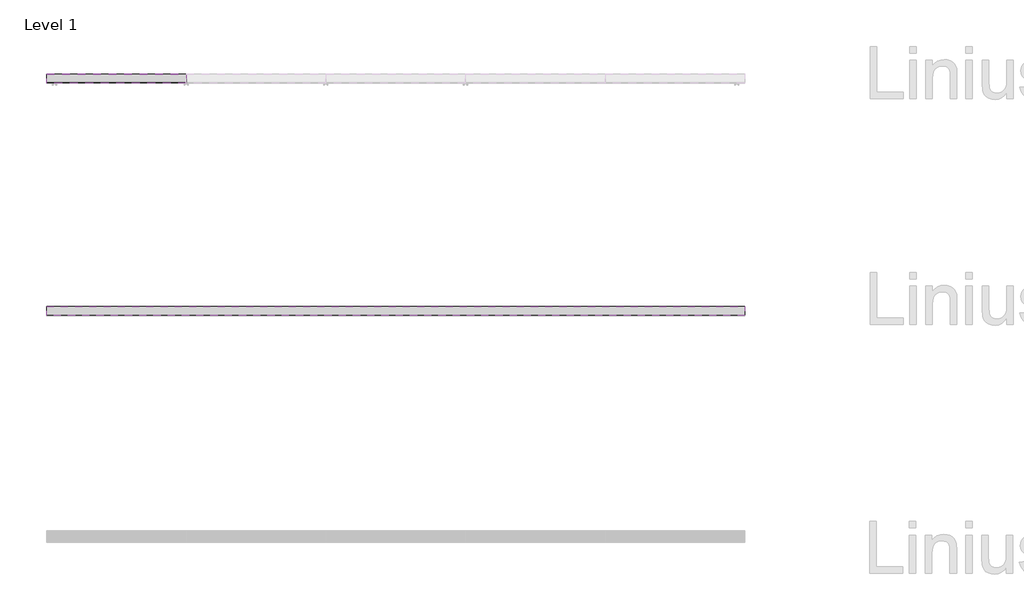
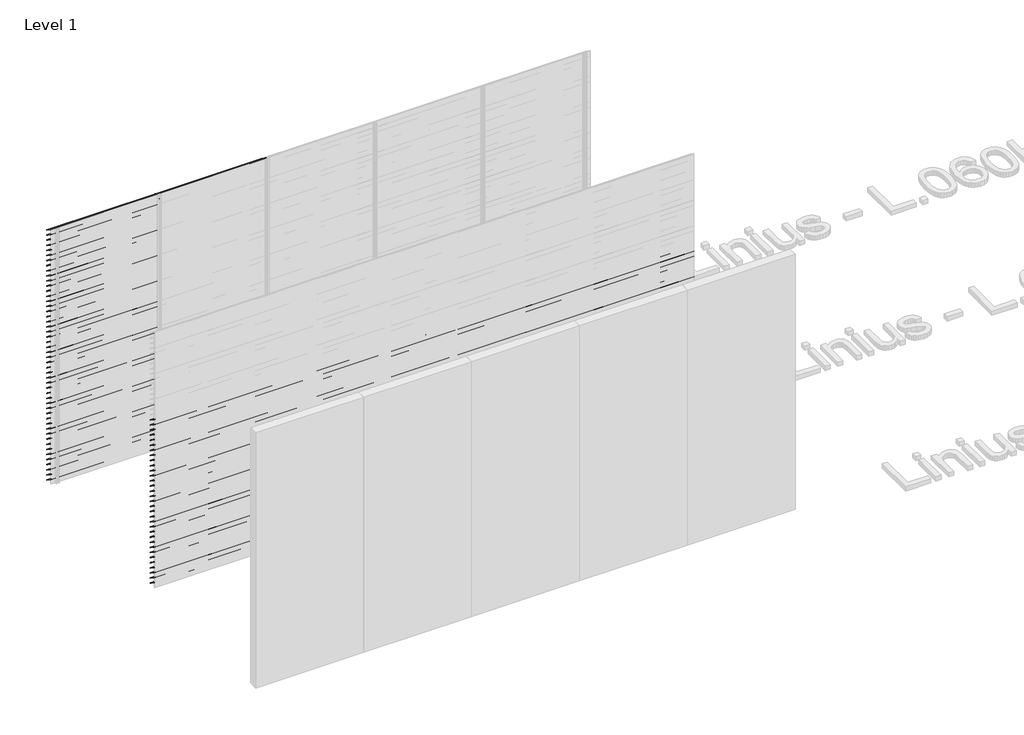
# One storey, part 126 of 153: 85 proxies.
"""IFC4 building model written with IfcOpenShell, lengths in millimetres."""

from ifc_helpers import new_model, si_unit, frame, origin, place, context, project, spatial, polyline, outline, extrude, element, save

model = new_model("IFC4")

# Units and contexts
model_context = context("Model", 3, world=origin())
ifc_project = project(units=[si_unit("LENGTHUNIT", "METRE", prefix="MILLI")], contexts=[model_context])

# Site, building, storey
site = spatial("IfcSite", under=ifc_project)
building = spatial("IfcBuilding", under=site)
storey = spatial("IfcBuildingStorey", under=building, Name="Level 1", Elevation=0.0)

# Proxies
placement = place(None, origin())
element("IfcBuildingElementProxy", 1, Name="Wall Sweeps", at=placement, inside=storey, context=model_context, shape_type="SweptSolid", body=[
    extrude(outline(polyline([(66561.0540136, 2946.0), (66561.0540136, 2940.0), (66559.8040136, 2940.7216933), (66559.8040136, 2945.2538091), (66483.0540136, 2993.9915103), (66483.0540136, 3000.0), (66484.3040136, 3000.0), (66484.3040136, 2994.7377012), (66561.0540136, 2946.0)])), frame((466.6208097, 0.0, 0.0), z_axis=(1.0, 0.0, 0.0), x_axis=(0.0, 1.0, 0.0)), (0.0, 0.0, 1.0), 1200.0000002),
])
element("IfcBuildingElementProxy", 2, Name="Wall Sweeps", at=placement, inside=storey, context=model_context, shape_type="SweptSolid", body=[
    extrude(outline(polyline([(66561.0540136, 2886.0), (66561.0540136, 2880.0), (66559.8040136, 2880.7216933), (66559.8040136, 2885.2538091), (66483.0540136, 2933.9915103), (66483.0540136, 2940.0), (66484.3040136, 2940.0), (66484.3040136, 2934.7377012), (66561.0540136, 2886.0)])), frame((466.6208097, 0.0, 0.0), z_axis=(1.0, 0.0, 0.0), x_axis=(0.0, 1.0, 0.0)), (0.0, 0.0, 1.0), 1200.0000002),
])
element("IfcBuildingElementProxy", 3, Name="Wall Sweeps", at=placement, inside=storey, context=model_context, shape_type="SweptSolid", body=[
    extrude(outline(polyline([(66561.0540136, 2826.0), (66561.0540136, 2820.0), (66559.8040136, 2820.7216933), (66559.8040136, 2825.2538091), (66483.0540136, 2873.9915103), (66483.0540136, 2880.0), (66484.3040136, 2880.0), (66484.3040136, 2874.7377012), (66561.0540136, 2826.0)])), frame((466.6208097, 0.0, 0.0), z_axis=(1.0, 0.0, 0.0), x_axis=(0.0, 1.0, 0.0)), (0.0, 0.0, 1.0), 1200.0000002),
])
element("IfcBuildingElementProxy", 4, Name="Wall Sweeps", at=placement, inside=storey, context=model_context, shape_type="SweptSolid", body=[
    extrude(outline(polyline([(66561.0540136, 2766.0), (66561.0540136, 2760.0), (66559.8040136, 2760.7216933), (66559.8040136, 2765.2538091), (66483.0540136, 2813.9915103), (66483.0540136, 2820.0), (66484.3040136, 2820.0), (66484.3040136, 2814.7377012), (66561.0540136, 2766.0)])), frame((466.6208097, 0.0, 0.0), z_axis=(1.0, 0.0, 0.0), x_axis=(0.0, 1.0, 0.0)), (0.0, 0.0, 1.0), 1200.0000002),
])
element("IfcBuildingElementProxy", 5, Name="Wall Sweeps", at=placement, inside=storey, context=model_context, shape_type="SweptSolid", body=[
    extrude(outline(polyline([(66561.0540136, 2706.0), (66561.0540136, 2700.0), (66559.8040136, 2700.7216933), (66559.8040136, 2705.2538091), (66483.0540136, 2753.9915103), (66483.0540136, 2760.0), (66484.3040136, 2760.0), (66484.3040136, 2754.7377012), (66561.0540136, 2706.0)])), frame((466.6208097, 0.0, 0.0), z_axis=(1.0, 0.0, 0.0), x_axis=(0.0, 1.0, 0.0)), (0.0, 0.0, 1.0), 1200.0000002),
])
element("IfcBuildingElementProxy", 6, Name="Wall Sweeps", at=placement, inside=storey, context=model_context, shape_type="SweptSolid", body=[
    extrude(outline(polyline([(66561.0540136, 2646.0), (66561.0540136, 2640.0), (66559.8040136, 2640.7216933), (66559.8040136, 2645.2538091), (66483.0540136, 2693.9915103), (66483.0540136, 2700.0), (66484.3040136, 2700.0), (66484.3040136, 2694.7377012), (66561.0540136, 2646.0)])), frame((466.6208097, 0.0, 0.0), z_axis=(1.0, 0.0, 0.0), x_axis=(0.0, 1.0, 0.0)), (0.0, 0.0, 1.0), 1200.0000002),
])
element("IfcBuildingElementProxy", 7, Name="Wall Sweeps", at=placement, inside=storey, context=model_context, shape_type="SweptSolid", body=[
    extrude(outline(polyline([(66561.0540136, 2586.0), (66561.0540136, 2580.0), (66559.8040136, 2580.7216933), (66559.8040136, 2585.2538091), (66483.0540136, 2633.9915103), (66483.0540136, 2640.0), (66484.3040136, 2640.0), (66484.3040136, 2634.7377012), (66561.0540136, 2586.0)])), frame((466.6208097, 0.0, 0.0), z_axis=(1.0, 0.0, 0.0), x_axis=(0.0, 1.0, 0.0)), (0.0, 0.0, 1.0), 1200.0000002),
])
element("IfcBuildingElementProxy", 8, Name="Wall Sweeps", at=placement, inside=storey, context=model_context, shape_type="SweptSolid", body=[
    extrude(outline(polyline([(66561.0540136, 2526.0), (66561.0540136, 2520.0), (66559.8040136, 2520.7216933), (66559.8040136, 2525.2538091), (66483.0540136, 2573.9915103), (66483.0540136, 2580.0), (66484.3040136, 2580.0), (66484.3040136, 2574.7377012), (66561.0540136, 2526.0)])), frame((466.6208097, 0.0, 0.0), z_axis=(1.0, 0.0, 0.0), x_axis=(0.0, 1.0, 0.0)), (0.0, 0.0, 1.0), 1200.0000002),
])
element("IfcBuildingElementProxy", 9, Name="Wall Sweeps", at=placement, inside=storey, context=model_context, shape_type="SweptSolid", body=[
    extrude(outline(polyline([(66561.0540136, 2466.0), (66561.0540136, 2460.0), (66559.8040136, 2460.7216933), (66559.8040136, 2465.2538091), (66483.0540136, 2513.9915103), (66483.0540136, 2520.0), (66484.3040136, 2520.0), (66484.3040136, 2514.7377012), (66561.0540136, 2466.0)])), frame((466.6208097, 0.0, 0.0), z_axis=(1.0, 0.0, 0.0), x_axis=(0.0, 1.0, 0.0)), (0.0, 0.0, 1.0), 1200.0000002),
])
element("IfcBuildingElementProxy", 10, Name="Wall Sweeps", at=placement, inside=storey, context=model_context, shape_type="SweptSolid", body=[
    extrude(outline(polyline([(66561.0540136, 2406.0), (66561.0540136, 2400.0), (66559.8040136, 2400.7216933), (66559.8040136, 2405.2538091), (66483.0540136, 2453.9915103), (66483.0540136, 2460.0), (66484.3040136, 2460.0), (66484.3040136, 2454.7377012), (66561.0540136, 2406.0)])), frame((466.6208097, 0.0, 0.0), z_axis=(1.0, 0.0, 0.0), x_axis=(0.0, 1.0, 0.0)), (0.0, 0.0, 1.0), 1200.0000002),
])
element("IfcBuildingElementProxy", 11, Name="Wall Sweeps", at=placement, inside=storey, context=model_context, shape_type="SweptSolid", body=[
    extrude(outline(polyline([(66561.0540136, 2346.0), (66561.0540136, 2340.0), (66559.8040136, 2340.7216933), (66559.8040136, 2345.2538091), (66483.0540136, 2393.9915103), (66483.0540136, 2400.0), (66484.3040136, 2400.0), (66484.3040136, 2394.7377012), (66561.0540136, 2346.0)])), frame((466.6208097, 0.0, 0.0), z_axis=(1.0, 0.0, 0.0), x_axis=(0.0, 1.0, 0.0)), (0.0, 0.0, 1.0), 1200.0000002),
])
element("IfcBuildingElementProxy", 12, Name="Wall Sweeps", at=placement, inside=storey, context=model_context, shape_type="SweptSolid", body=[
    extrude(outline(polyline([(66561.0540136, 2286.0), (66561.0540136, 2280.0), (66559.8040136, 2280.7216933), (66559.8040136, 2285.2538091), (66483.0540136, 2333.9915103), (66483.0540136, 2340.0), (66484.3040136, 2340.0), (66484.3040136, 2334.7377012), (66561.0540136, 2286.0)])), frame((466.6208097, 0.0, 0.0), z_axis=(1.0, 0.0, 0.0), x_axis=(0.0, 1.0, 0.0)), (0.0, 0.0, 1.0), 1200.0000002),
])
element("IfcBuildingElementProxy", 13, Name="Wall Sweeps", at=placement, inside=storey, context=model_context, shape_type="SweptSolid", body=[
    extrude(outline(polyline([(66561.0540136, 2226.0), (66561.0540136, 2220.0), (66559.8040136, 2220.7216933), (66559.8040136, 2225.2538091), (66483.0540136, 2273.9915103), (66483.0540136, 2280.0), (66484.3040136, 2280.0), (66484.3040136, 2274.7377012), (66561.0540136, 2226.0)])), frame((466.6208097, 0.0, 0.0), z_axis=(1.0, 0.0, 0.0), x_axis=(0.0, 1.0, 0.0)), (0.0, 0.0, 1.0), 1200.0000002),
])
element("IfcBuildingElementProxy", 14, Name="Wall Sweeps", at=placement, inside=storey, context=model_context, shape_type="SweptSolid", body=[
    extrude(outline(polyline([(66561.0540136, 2166.0), (66561.0540136, 2160.0), (66559.8040136, 2160.7216933), (66559.8040136, 2165.2538091), (66483.0540136, 2213.9915103), (66483.0540136, 2220.0), (66484.3040136, 2220.0), (66484.3040136, 2214.7377012), (66561.0540136, 2166.0)])), frame((466.6208097, 0.0, 0.0), z_axis=(1.0, 0.0, 0.0), x_axis=(0.0, 1.0, 0.0)), (0.0, 0.0, 1.0), 1200.0000002),
])
element("IfcBuildingElementProxy", 15, Name="Wall Sweeps", at=placement, inside=storey, context=model_context, shape_type="SweptSolid", body=[
    extrude(outline(polyline([(66561.0540136, 2106.0), (66561.0540136, 2100.0), (66559.8040136, 2100.7216933), (66559.8040136, 2105.2538091), (66483.0540136, 2153.9915103), (66483.0540136, 2160.0), (66484.3040136, 2160.0), (66484.3040136, 2154.7377012), (66561.0540136, 2106.0)])), frame((466.6208097, 0.0, 0.0), z_axis=(1.0, 0.0, 0.0), x_axis=(0.0, 1.0, 0.0)), (0.0, 0.0, 1.0), 1200.0000002),
])
element("IfcBuildingElementProxy", 16, Name="Wall Sweeps", at=placement, inside=storey, context=model_context, shape_type="SweptSolid", body=[
    extrude(outline(polyline([(66561.0540136, 2046.0), (66561.0540136, 2040.0), (66559.8040136, 2040.7216933), (66559.8040136, 2045.2538091), (66483.0540136, 2093.9915103), (66483.0540136, 2100.0), (66484.3040136, 2100.0), (66484.3040136, 2094.7377012), (66561.0540136, 2046.0)])), frame((466.6208097, 0.0, 0.0), z_axis=(1.0, 0.0, 0.0), x_axis=(0.0, 1.0, 0.0)), (0.0, 0.0, 1.0), 1200.0000002),
])
element("IfcBuildingElementProxy", 17, Name="Wall Sweeps", at=placement, inside=storey, context=model_context, shape_type="SweptSolid", body=[
    extrude(outline(polyline([(66561.0540136, 1986.0), (66561.0540136, 1980.0), (66559.8040136, 1980.7216933), (66559.8040136, 1985.2538091), (66483.0540136, 2033.9915103), (66483.0540136, 2040.0), (66484.3040136, 2040.0), (66484.3040136, 2034.7377012), (66561.0540136, 1986.0)])), frame((466.6208097, 0.0, 0.0), z_axis=(1.0, 0.0, 0.0), x_axis=(0.0, 1.0, 0.0)), (0.0, 0.0, 1.0), 1200.0000002),
])
element("IfcBuildingElementProxy", 18, Name="Wall Sweeps", at=placement, inside=storey, context=model_context, shape_type="SweptSolid", body=[
    extrude(outline(polyline([(66561.0540136, 1926.0), (66561.0540136, 1920.0), (66559.8040136, 1920.7216933), (66559.8040136, 1925.2538091), (66483.0540136, 1973.9915103), (66483.0540136, 1980.0), (66484.3040136, 1980.0), (66484.3040136, 1974.7377012), (66561.0540136, 1926.0)])), frame((466.6208097, 0.0, 0.0), z_axis=(1.0, 0.0, 0.0), x_axis=(0.0, 1.0, 0.0)), (0.0, 0.0, 1.0), 1200.0000002),
])
element("IfcBuildingElementProxy", 19, Name="Wall Sweeps", at=placement, inside=storey, context=model_context, shape_type="SweptSolid", body=[
    extrude(outline(polyline([(66561.0540136, 1866.0), (66561.0540136, 1860.0), (66559.8040136, 1860.7216933), (66559.8040136, 1865.2538091), (66483.0540136, 1913.9915103), (66483.0540136, 1920.0), (66484.3040136, 1920.0), (66484.3040136, 1914.7377012), (66561.0540136, 1866.0)])), frame((466.6208097, 0.0, 0.0), z_axis=(1.0, 0.0, 0.0), x_axis=(0.0, 1.0, 0.0)), (0.0, 0.0, 1.0), 1200.0000002),
])
element("IfcBuildingElementProxy", 20, Name="Wall Sweeps", at=placement, inside=storey, context=model_context, shape_type="SweptSolid", body=[
    extrude(outline(polyline([(66561.0540136, 1806.0), (66561.0540136, 1800.0), (66559.8040136, 1800.7216933), (66559.8040136, 1805.2538091), (66483.0540136, 1853.9915103), (66483.0540136, 1860.0), (66484.3040136, 1860.0), (66484.3040136, 1854.7377012), (66561.0540136, 1806.0)])), frame((466.6208097, 0.0, 0.0), z_axis=(1.0, 0.0, 0.0), x_axis=(0.0, 1.0, 0.0)), (0.0, 0.0, 1.0), 1200.0000002),
])
element("IfcBuildingElementProxy", 21, Name="Wall Sweeps", at=placement, inside=storey, context=model_context, shape_type="SweptSolid", body=[
    extrude(outline(polyline([(66561.0540136, 1746.0), (66561.0540136, 1740.0), (66559.8040136, 1740.7216933), (66559.8040136, 1745.2538091), (66483.0540136, 1793.9915103), (66483.0540136, 1800.0), (66484.3040136, 1800.0), (66484.3040136, 1794.7377012), (66561.0540136, 1746.0)])), frame((466.6208097, 0.0, 0.0), z_axis=(1.0, 0.0, 0.0), x_axis=(0.0, 1.0, 0.0)), (0.0, 0.0, 1.0), 1200.0000002),
])
element("IfcBuildingElementProxy", 22, Name="Wall Sweeps", at=placement, inside=storey, context=model_context, shape_type="SweptSolid", body=[
    extrude(outline(polyline([(66561.0540136, 1686.0), (66561.0540136, 1680.0), (66559.8040136, 1680.7216933), (66559.8040136, 1685.2538091), (66483.0540136, 1733.9915103), (66483.0540136, 1740.0), (66484.3040136, 1740.0), (66484.3040136, 1734.7377012), (66561.0540136, 1686.0)])), frame((466.6208097, 0.0, 0.0), z_axis=(1.0, 0.0, 0.0), x_axis=(0.0, 1.0, 0.0)), (0.0, 0.0, 1.0), 1200.0000002),
])
element("IfcBuildingElementProxy", 23, Name="Wall Sweeps", at=placement, inside=storey, context=model_context, shape_type="SweptSolid", body=[
    extrude(outline(polyline([(66561.0540136, 1626.0), (66561.0540136, 1620.0), (66559.8040136, 1620.7216933), (66559.8040136, 1625.2538091), (66483.0540136, 1673.9915103), (66483.0540136, 1680.0), (66484.3040136, 1680.0), (66484.3040136, 1674.7377012), (66561.0540136, 1626.0)])), frame((466.6208097, 0.0, 0.0), z_axis=(1.0, 0.0, 0.0), x_axis=(0.0, 1.0, 0.0)), (0.0, 0.0, 1.0), 1200.0000002),
])
element("IfcBuildingElementProxy", 24, Name="Wall Sweeps", at=placement, inside=storey, context=model_context, shape_type="SweptSolid", body=[
    extrude(outline(polyline([(66561.0540136, 1566.0), (66561.0540136, 1560.0), (66559.8040136, 1560.7216933), (66559.8040136, 1565.2538091), (66483.0540136, 1613.9915103), (66483.0540136, 1620.0), (66484.3040136, 1620.0), (66484.3040136, 1614.7377012), (66561.0540136, 1566.0)])), frame((466.6208097, 0.0, 0.0), z_axis=(1.0, 0.0, 0.0), x_axis=(0.0, 1.0, 0.0)), (0.0, 0.0, 1.0), 1200.0000002),
])
element("IfcBuildingElementProxy", 25, Name="Wall Sweeps", at=placement, inside=storey, context=model_context, shape_type="SweptSolid", body=[
    extrude(outline(polyline([(66561.0540136, 1506.0), (66561.0540136, 1500.0), (66559.8040136, 1500.7216933), (66559.8040136, 1505.2538091), (66483.0540136, 1553.9915103), (66483.0540136, 1560.0), (66484.3040136, 1560.0), (66484.3040136, 1554.7377012), (66561.0540136, 1506.0)])), frame((466.6208097, 0.0, 0.0), z_axis=(1.0, 0.0, 0.0), x_axis=(0.0, 1.0, 0.0)), (0.0, 0.0, 1.0), 1200.0000002),
])
element("IfcBuildingElementProxy", 26, Name="Wall Sweeps", at=placement, inside=storey, context=model_context, shape_type="SweptSolid", body=[
    extrude(outline(polyline([(66561.0540136, 1446.0), (66561.0540136, 1440.0), (66559.8040136, 1440.7216933), (66559.8040136, 1445.2538091), (66483.0540136, 1493.9915103), (66483.0540136, 1500.0), (66484.3040136, 1500.0), (66484.3040136, 1494.7377012), (66561.0540136, 1446.0)])), frame((466.6208097, 0.0, 0.0), z_axis=(1.0, 0.0, 0.0), x_axis=(0.0, 1.0, 0.0)), (0.0, 0.0, 1.0), 1200.0000002),
])
element("IfcBuildingElementProxy", 27, Name="Wall Sweeps", at=placement, inside=storey, context=model_context, shape_type="SweptSolid", body=[
    extrude(outline(polyline([(66561.0540136, 1386.0), (66561.0540136, 1380.0), (66559.8040136, 1380.7216933), (66559.8040136, 1385.2538091), (66483.0540136, 1433.9915103), (66483.0540136, 1440.0), (66484.3040136, 1440.0), (66484.3040136, 1434.7377012), (66561.0540136, 1386.0)])), frame((466.6208097, 0.0, 0.0), z_axis=(1.0, 0.0, 0.0), x_axis=(0.0, 1.0, 0.0)), (0.0, 0.0, 1.0), 1200.0000002),
])
element("IfcBuildingElementProxy", 28, Name="Wall Sweeps", at=placement, inside=storey, context=model_context, shape_type="SweptSolid", body=[
    extrude(outline(polyline([(66561.0540136, 1326.0), (66561.0540136, 1320.0), (66559.8040136, 1320.7216933), (66559.8040136, 1325.2538091), (66483.0540136, 1373.9915103), (66483.0540136, 1380.0), (66484.3040136, 1380.0), (66484.3040136, 1374.7377012), (66561.0540136, 1326.0)])), frame((466.6208097, 0.0, 0.0), z_axis=(1.0, 0.0, 0.0), x_axis=(0.0, 1.0, 0.0)), (0.0, 0.0, 1.0), 1200.0000002),
])
element("IfcBuildingElementProxy", 29, Name="Wall Sweeps", at=placement, inside=storey, context=model_context, shape_type="SweptSolid", body=[
    extrude(outline(polyline([(66561.0540136, 1266.0), (66561.0540136, 1260.0), (66559.8040136, 1260.7216933), (66559.8040136, 1265.2538091), (66483.0540136, 1313.9915103), (66483.0540136, 1320.0), (66484.3040136, 1320.0), (66484.3040136, 1314.7377012), (66561.0540136, 1266.0)])), frame((466.6208097, 0.0, 0.0), z_axis=(1.0, 0.0, 0.0), x_axis=(0.0, 1.0, 0.0)), (0.0, 0.0, 1.0), 1200.0000002),
])
element("IfcBuildingElementProxy", 30, Name="Wall Sweeps", at=placement, inside=storey, context=model_context, shape_type="SweptSolid", body=[
    extrude(outline(polyline([(66561.0540136, 1206.0), (66561.0540136, 1200.0), (66559.8040136, 1200.7216933), (66559.8040136, 1205.2538091), (66483.0540136, 1253.9915103), (66483.0540136, 1260.0), (66484.3040136, 1260.0), (66484.3040136, 1254.7377012), (66561.0540136, 1206.0)])), frame((466.6208097, 0.0, 0.0), z_axis=(1.0, 0.0, 0.0), x_axis=(0.0, 1.0, 0.0)), (0.0, 0.0, 1.0), 1200.0000002),
])
element("IfcBuildingElementProxy", 31, Name="Wall Sweeps", at=placement, inside=storey, context=model_context, shape_type="SweptSolid", body=[
    extrude(outline(polyline([(66561.0540136, 1146.0), (66561.0540136, 1140.0), (66559.8040136, 1140.7216933), (66559.8040136, 1145.2538091), (66483.0540136, 1193.9915103), (66483.0540136, 1200.0), (66484.3040136, 1200.0), (66484.3040136, 1194.7377012), (66561.0540136, 1146.0)])), frame((466.6208097, 0.0, 0.0), z_axis=(1.0, 0.0, 0.0), x_axis=(0.0, 1.0, 0.0)), (0.0, 0.0, 1.0), 1200.0000002),
])
element("IfcBuildingElementProxy", 32, Name="Wall Sweeps", at=placement, inside=storey, context=model_context, shape_type="SweptSolid", body=[
    extrude(outline(polyline([(66561.0540136, 1086.0), (66561.0540136, 1080.0), (66559.8040136, 1080.7216933), (66559.8040136, 1085.2538091), (66483.0540136, 1133.9915103), (66483.0540136, 1140.0), (66484.3040136, 1140.0), (66484.3040136, 1134.7377012), (66561.0540136, 1086.0)])), frame((466.6208097, 0.0, 0.0), z_axis=(1.0, 0.0, 0.0), x_axis=(0.0, 1.0, 0.0)), (0.0, 0.0, 1.0), 1200.0000002),
])
element("IfcBuildingElementProxy", 33, Name="Wall Sweeps", at=placement, inside=storey, context=model_context, shape_type="SweptSolid", body=[
    extrude(outline(polyline([(66561.0540136, 1026.0), (66561.0540136, 1020.0), (66559.8040136, 1020.7216933), (66559.8040136, 1025.2538091), (66483.0540136, 1073.9915103), (66483.0540136, 1080.0), (66484.3040136, 1080.0), (66484.3040136, 1074.7377012), (66561.0540136, 1026.0)])), frame((466.6208097, 0.0, 0.0), z_axis=(1.0, 0.0, 0.0), x_axis=(0.0, 1.0, 0.0)), (0.0, 0.0, 1.0), 1200.0000002),
])
element("IfcBuildingElementProxy", 34, Name="Wall Sweeps", at=placement, inside=storey, context=model_context, shape_type="SweptSolid", body=[
    extrude(outline(polyline([(66561.0540136, 966.0), (66561.0540136, 960.0), (66559.8040136, 960.7216933), (66559.8040136, 965.2538091), (66483.0540136, 1013.9915103), (66483.0540136, 1020.0), (66484.3040136, 1020.0), (66484.3040136, 1014.7377012), (66561.0540136, 966.0)])), frame((466.6208097, 0.0, 0.0), z_axis=(1.0, 0.0, 0.0), x_axis=(0.0, 1.0, 0.0)), (0.0, 0.0, 1.0), 1200.0000002),
])
element("IfcBuildingElementProxy", 35, Name="Wall Sweeps", at=placement, inside=storey, context=model_context, shape_type="SweptSolid", body=[
    extrude(outline(polyline([(66561.0540136, 906.0), (66561.0540136, 900.0), (66559.8040136, 900.7216933), (66559.8040136, 905.2538091), (66483.0540136, 953.9915103), (66483.0540136, 960.0), (66484.3040136, 960.0), (66484.3040136, 954.7377012), (66561.0540136, 906.0)])), frame((466.6208097, 0.0, 0.0), z_axis=(1.0, 0.0, 0.0), x_axis=(0.0, 1.0, 0.0)), (0.0, 0.0, 1.0), 1200.0000002),
])
element("IfcBuildingElementProxy", 36, Name="Wall Sweeps", at=placement, inside=storey, context=model_context, shape_type="SweptSolid", body=[
    extrude(outline(polyline([(66561.0540136, 846.0), (66561.0540136, 840.0), (66559.8040136, 840.7216933), (66559.8040136, 845.2538091), (66483.0540136, 893.9915103), (66483.0540136, 900.0), (66484.3040136, 900.0), (66484.3040136, 894.7377012), (66561.0540136, 846.0)])), frame((466.6208097, 0.0, 0.0), z_axis=(1.0, 0.0, 0.0), x_axis=(0.0, 1.0, 0.0)), (0.0, 0.0, 1.0), 1200.0000002),
])
element("IfcBuildingElementProxy", 37, Name="Wall Sweeps", at=placement, inside=storey, context=model_context, shape_type="SweptSolid", body=[
    extrude(outline(polyline([(66561.0540136, 786.0), (66561.0540136, 780.0), (66559.8040136, 780.7216933), (66559.8040136, 785.2538091), (66483.0540136, 833.9915103), (66483.0540136, 840.0), (66484.3040136, 840.0), (66484.3040136, 834.7377012), (66561.0540136, 786.0)])), frame((466.6208097, 0.0, 0.0), z_axis=(1.0, 0.0, 0.0), x_axis=(0.0, 1.0, 0.0)), (0.0, 0.0, 1.0), 1200.0000002),
])
element("IfcBuildingElementProxy", 38, Name="Wall Sweeps", at=placement, inside=storey, context=model_context, shape_type="SweptSolid", body=[
    extrude(outline(polyline([(66561.0540136, 726.0), (66561.0540136, 720.0), (66559.8040136, 720.7216933), (66559.8040136, 725.2538091), (66483.0540136, 773.9915103), (66483.0540136, 780.0), (66484.3040136, 780.0), (66484.3040136, 774.7377012), (66561.0540136, 726.0)])), frame((466.6208097, 0.0, 0.0), z_axis=(1.0, 0.0, 0.0), x_axis=(0.0, 1.0, 0.0)), (0.0, 0.0, 1.0), 1200.0000002),
])
element("IfcBuildingElementProxy", 39, Name="Wall Sweeps", at=placement, inside=storey, context=model_context, shape_type="SweptSolid", body=[
    extrude(outline(polyline([(66561.0540136, 666.0), (66561.0540136, 660.0), (66559.8040136, 660.7216933), (66559.8040136, 665.2538091), (66483.0540136, 713.9915103), (66483.0540136, 720.0), (66484.3040136, 720.0), (66484.3040136, 714.7377012), (66561.0540136, 666.0)])), frame((466.6208097, 0.0, 0.0), z_axis=(1.0, 0.0, 0.0), x_axis=(0.0, 1.0, 0.0)), (0.0, 0.0, 1.0), 1200.0000002),
])
element("IfcBuildingElementProxy", 40, Name="Wall Sweeps", at=placement, inside=storey, context=model_context, shape_type="SweptSolid", body=[
    extrude(outline(polyline([(66561.0540136, 606.0), (66561.0540136, 600.0), (66559.8040136, 600.7216933), (66559.8040136, 605.2538091), (66483.0540136, 653.9915103), (66483.0540136, 660.0), (66484.3040136, 660.0), (66484.3040136, 654.7377012), (66561.0540136, 606.0)])), frame((466.6208097, 0.0, 0.0), z_axis=(1.0, 0.0, 0.0), x_axis=(0.0, 1.0, 0.0)), (0.0, 0.0, 1.0), 1200.0000002),
])
element("IfcBuildingElementProxy", 41, Name="Wall Sweeps", at=placement, inside=storey, context=model_context, shape_type="SweptSolid", body=[
    extrude(outline(polyline([(66561.0540136, 546.0), (66561.0540136, 540.0), (66559.8040136, 540.7216933), (66559.8040136, 545.2538091), (66483.0540136, 593.9915103), (66483.0540136, 600.0), (66484.3040136, 600.0), (66484.3040136, 594.7377012), (66561.0540136, 546.0)])), frame((466.6208097, 0.0, 0.0), z_axis=(1.0, 0.0, 0.0), x_axis=(0.0, 1.0, 0.0)), (0.0, 0.0, 1.0), 1200.0000002),
])
element("IfcBuildingElementProxy", 42, Name="Wall Sweeps", at=placement, inside=storey, context=model_context, shape_type="SweptSolid", body=[
    extrude(outline(polyline([(66561.0540136, 486.0), (66561.0540136, 480.0), (66559.8040136, 480.7216933), (66559.8040136, 485.2538091), (66483.0540136, 533.9915103), (66483.0540136, 540.0), (66484.3040136, 540.0), (66484.3040136, 534.7377012), (66561.0540136, 486.0)])), frame((466.6208097, 0.0, 0.0), z_axis=(1.0, 0.0, 0.0), x_axis=(0.0, 1.0, 0.0)), (0.0, 0.0, 1.0), 1200.0000002),
])
element("IfcBuildingElementProxy", 43, Name="Wall Sweeps", at=placement, inside=storey, context=model_context, shape_type="SweptSolid", body=[
    extrude(outline(polyline([(66561.0540136, 426.0), (66561.0540136, 420.0), (66559.8040136, 420.7216933), (66559.8040136, 425.2538091), (66483.0540136, 473.9915103), (66483.0540136, 480.0), (66484.3040136, 480.0), (66484.3040136, 474.7377012), (66561.0540136, 426.0)])), frame((466.6208097, 0.0, 0.0), z_axis=(1.0, 0.0, 0.0), x_axis=(0.0, 1.0, 0.0)), (0.0, 0.0, 1.0), 1200.0000002),
])
element("IfcBuildingElementProxy", 44, Name="Wall Sweeps", at=placement, inside=storey, context=model_context, shape_type="SweptSolid", body=[
    extrude(outline(polyline([(66561.0540136, 366.0), (66561.0540136, 360.0), (66559.8040136, 360.7216933), (66559.8040136, 365.2538091), (66483.0540136, 413.9915103), (66483.0540136, 420.0), (66484.3040136, 420.0), (66484.3040136, 414.7377012), (66561.0540136, 366.0)])), frame((466.6208097, 0.0, 0.0), z_axis=(1.0, 0.0, 0.0), x_axis=(0.0, 1.0, 0.0)), (0.0, 0.0, 1.0), 1200.0000002),
])
element("IfcBuildingElementProxy", 45, Name="Wall Sweeps", at=placement, inside=storey, context=model_context, shape_type="SweptSolid", body=[
    extrude(outline(polyline([(66561.0540136, 306.0), (66561.0540136, 300.0), (66559.8040136, 300.7216933), (66559.8040136, 305.2538091), (66483.0540136, 353.9915103), (66483.0540136, 360.0), (66484.3040136, 360.0), (66484.3040136, 354.7377012), (66561.0540136, 306.0)])), frame((466.6208097, 0.0, 0.0), z_axis=(1.0, 0.0, 0.0), x_axis=(0.0, 1.0, 0.0)), (0.0, 0.0, 1.0), 1200.0000002),
])
element("IfcBuildingElementProxy", 46, Name="Wall Sweeps", at=placement, inside=storey, context=model_context, shape_type="SweptSolid", body=[
    extrude(outline(polyline([(66561.0540136, 246.0), (66561.0540136, 240.0), (66559.8040136, 240.7216933), (66559.8040136, 245.2538091), (66483.0540136, 293.9915103), (66483.0540136, 300.0), (66484.3040136, 300.0), (66484.3040136, 294.7377012), (66561.0540136, 246.0)])), frame((466.6208097, 0.0, 0.0), z_axis=(1.0, 0.0, 0.0), x_axis=(0.0, 1.0, 0.0)), (0.0, 0.0, 1.0), 1200.0000002),
])
element("IfcBuildingElementProxy", 47, Name="Wall Sweeps", at=placement, inside=storey, context=model_context, shape_type="SweptSolid", body=[
    extrude(outline(polyline([(66561.0540136, 186.0), (66561.0540136, 180.0), (66559.8040136, 180.7216933), (66559.8040136, 185.2538091), (66483.0540136, 233.9915103), (66483.0540136, 240.0), (66484.3040136, 240.0), (66484.3040136, 234.7377012), (66561.0540136, 186.0)])), frame((466.6208097, 0.0, 0.0), z_axis=(1.0, 0.0, 0.0), x_axis=(0.0, 1.0, 0.0)), (0.0, 0.0, 1.0), 1200.0000002),
])
element("IfcBuildingElementProxy", 48, Name="Wall Sweeps", at=placement, inside=storey, context=model_context, shape_type="SweptSolid", body=[
    extrude(outline(polyline([(66561.0540136, 126.0), (66561.0540136, 120.0), (66559.8040136, 120.7216933), (66559.8040136, 125.2538091), (66483.0540136, 173.9915103), (66483.0540136, 180.0), (66484.3040136, 180.0), (66484.3040136, 174.7377012), (66561.0540136, 126.0)])), frame((466.6208097, 0.0, 0.0), z_axis=(1.0, 0.0, 0.0), x_axis=(0.0, 1.0, 0.0)), (0.0, 0.0, 1.0), 1200.0000002),
])
element("IfcBuildingElementProxy", 49, Name="Wall Sweeps", at=placement, inside=storey, context=model_context, shape_type="SweptSolid", body=[
    extrude(outline(polyline([(66561.0540136, 66.0), (66561.0540136, 60.0), (66559.8040136, 60.7216933), (66559.8040136, 65.2538091), (66483.0540136, 113.9915103), (66483.0540136, 120.0), (66484.3040136, 120.0), (66484.3040136, 114.7377012), (66561.0540136, 66.0)])), frame((466.6208097, 0.0, 0.0), z_axis=(1.0, 0.0, 0.0), x_axis=(0.0, 1.0, 0.0)), (0.0, 0.0, 1.0), 1200.0000002),
])
element("IfcBuildingElementProxy", 50, Name="Wall Sweeps", at=placement, inside=storey, context=model_context, shape_type="SweptSolid", body=[
    extrude(outline(polyline([(66561.0540136, 6.0), (66561.0540136, 0.0), (66559.8040136, 0.7216933), (66559.8040136, 5.2538091), (66483.0540136, 53.9915103), (66483.0540136, 60.0), (66484.3040136, 60.0), (66484.3040136, 54.7377012), (66561.0540136, 6.0)])), frame((466.6208097, 0.0, 0.0), z_axis=(1.0, 0.0, 0.0), x_axis=(0.0, 1.0, 0.0)), (0.0, 0.0, 1.0), 1200.0000002),
])
element("IfcBuildingElementProxy", 51, Name="Wall Sweeps", at=placement, inside=storey, context=model_context, shape_type="SweptSolid", body=[
    extrude(outline(polyline([(66561.0540136, 2946.0), (66561.0540136, 2940.0), (66559.8040136, 2940.7216933), (66559.8040136, 2945.2538091), (66483.0540136, 2993.9915103), (66483.0540136, 3000.0), (66484.3040136, 3000.0), (66484.3040136, 2994.7377012), (66561.0540136, 2946.0)])), frame((1666.6208099, 0.0, 0.0), z_axis=(1.0, 0.0, 0.0), x_axis=(0.0, 1.0, 0.0)), (0.0, 0.0, 1.0), 1199.9999999),
])
element("IfcBuildingElementProxy", 52, Name="Wall Sweeps", at=placement, inside=storey, context=model_context, shape_type="SweptSolid", body=[
    extrude(outline(polyline([(66561.0540136, 2886.0), (66561.0540136, 2880.0), (66559.8040136, 2880.7216933), (66559.8040136, 2885.2538091), (66483.0540136, 2933.9915103), (66483.0540136, 2940.0), (66484.3040136, 2940.0), (66484.3040136, 2934.7377012), (66561.0540136, 2886.0)])), frame((1666.6208099, 0.0, 0.0), z_axis=(1.0, 0.0, 0.0), x_axis=(0.0, 1.0, 0.0)), (0.0, 0.0, 1.0), 1199.9999999),
])
element("IfcBuildingElementProxy", 53, Name="Wall Sweeps", at=placement, inside=storey, context=model_context, shape_type="SweptSolid", body=[
    extrude(outline(polyline([(64561.0540136, 1926.0), (64561.0540136, 1920.0), (64559.8040136, 1920.7216933), (64559.8040136, 1925.2538091), (64483.0540136, 1973.9915103), (64483.0540136, 1980.0), (64484.3040136, 1980.0), (64484.3040136, 1974.7377012), (64561.0540136, 1926.0)])), frame((466.6208097, 0.0, 0.0), z_axis=(1.0, 0.0, 0.0), x_axis=(0.0, 1.0, 0.0)), (0.0, 0.0, 1.0), 6000.0),
])
element("IfcBuildingElementProxy", 54, Name="Wall Sweeps", at=placement, inside=storey, context=model_context, shape_type="SweptSolid", body=[
    extrude(outline(polyline([(64561.0540136, 1866.0), (64561.0540136, 1860.0), (64559.8040136, 1860.7216933), (64559.8040136, 1865.2538091), (64483.0540136, 1913.9915103), (64483.0540136, 1920.0), (64484.3040136, 1920.0), (64484.3040136, 1914.7377012), (64561.0540136, 1866.0)])), frame((466.6208097, 0.0, 0.0), z_axis=(1.0, 0.0, 0.0), x_axis=(0.0, 1.0, 0.0)), (0.0, 0.0, 1.0), 6000.0),
])
element("IfcBuildingElementProxy", 55, Name="Wall Sweeps", at=placement, inside=storey, context=model_context, shape_type="SweptSolid", body=[
    extrude(outline(polyline([(64561.0540136, 1806.0), (64561.0540136, 1800.0), (64559.8040136, 1800.7216933), (64559.8040136, 1805.2538091), (64483.0540136, 1853.9915103), (64483.0540136, 1860.0), (64484.3040136, 1860.0), (64484.3040136, 1854.7377012), (64561.0540136, 1806.0)])), frame((466.6208097, 0.0, 0.0), z_axis=(1.0, 0.0, 0.0), x_axis=(0.0, 1.0, 0.0)), (0.0, 0.0, 1.0), 6000.0),
])
element("IfcBuildingElementProxy", 56, Name="Wall Sweeps", at=placement, inside=storey, context=model_context, shape_type="SweptSolid", body=[
    extrude(outline(polyline([(64561.0540136, 1746.0), (64561.0540136, 1740.0), (64559.8040136, 1740.7216933), (64559.8040136, 1745.2538091), (64483.0540136, 1793.9915103), (64483.0540136, 1800.0), (64484.3040136, 1800.0), (64484.3040136, 1794.7377012), (64561.0540136, 1746.0)])), frame((466.6208097, 0.0, 0.0), z_axis=(1.0, 0.0, 0.0), x_axis=(0.0, 1.0, 0.0)), (0.0, 0.0, 1.0), 6000.0),
])
element("IfcBuildingElementProxy", 57, Name="Wall Sweeps", at=placement, inside=storey, context=model_context, shape_type="SweptSolid", body=[
    extrude(outline(polyline([(64561.0540136, 1686.0), (64561.0540136, 1680.0), (64559.8040136, 1680.7216933), (64559.8040136, 1685.2538091), (64483.0540136, 1733.9915103), (64483.0540136, 1740.0), (64484.3040136, 1740.0), (64484.3040136, 1734.7377012), (64561.0540136, 1686.0)])), frame((466.6208097, 0.0, 0.0), z_axis=(1.0, 0.0, 0.0), x_axis=(0.0, 1.0, 0.0)), (0.0, 0.0, 1.0), 6000.0),
])
element("IfcBuildingElementProxy", 58, Name="Wall Sweeps", at=placement, inside=storey, context=model_context, shape_type="SweptSolid", body=[
    extrude(outline(polyline([(64561.0540136, 1626.0), (64561.0540136, 1620.0), (64559.8040136, 1620.7216933), (64559.8040136, 1625.2538091), (64483.0540136, 1673.9915103), (64483.0540136, 1680.0), (64484.3040136, 1680.0), (64484.3040136, 1674.7377012), (64561.0540136, 1626.0)])), frame((466.6208097, 0.0, 0.0), z_axis=(1.0, 0.0, 0.0), x_axis=(0.0, 1.0, 0.0)), (0.0, 0.0, 1.0), 6000.0),
])
element("IfcBuildingElementProxy", 59, Name="Wall Sweeps", at=placement, inside=storey, context=model_context, shape_type="SweptSolid", body=[
    extrude(outline(polyline([(64561.0540136, 1566.0), (64561.0540136, 1560.0), (64559.8040136, 1560.7216933), (64559.8040136, 1565.2538091), (64483.0540136, 1613.9915103), (64483.0540136, 1620.0), (64484.3040136, 1620.0), (64484.3040136, 1614.7377012), (64561.0540136, 1566.0)])), frame((466.6208097, 0.0, 0.0), z_axis=(1.0, 0.0, 0.0), x_axis=(0.0, 1.0, 0.0)), (0.0, 0.0, 1.0), 6000.0),
])
element("IfcBuildingElementProxy", 60, Name="Wall Sweeps", at=placement, inside=storey, context=model_context, shape_type="SweptSolid", body=[
    extrude(outline(polyline([(64561.0540136, 1506.0), (64561.0540136, 1500.0), (64559.8040136, 1500.7216933), (64559.8040136, 1505.2538091), (64483.0540136, 1553.9915103), (64483.0540136, 1560.0), (64484.3040136, 1560.0), (64484.3040136, 1554.7377012), (64561.0540136, 1506.0)])), frame((466.6208097, 0.0, 0.0), z_axis=(1.0, 0.0, 0.0), x_axis=(0.0, 1.0, 0.0)), (0.0, 0.0, 1.0), 6000.0),
])
element("IfcBuildingElementProxy", 61, Name="Wall Sweeps", at=placement, inside=storey, context=model_context, shape_type="SweptSolid", body=[
    extrude(outline(polyline([(64561.0540136, 1446.0), (64561.0540136, 1440.0), (64559.8040136, 1440.7216933), (64559.8040136, 1445.2538091), (64483.0540136, 1493.9915103), (64483.0540136, 1500.0), (64484.3040136, 1500.0), (64484.3040136, 1494.7377012), (64561.0540136, 1446.0)])), frame((466.6208097, 0.0, 0.0), z_axis=(1.0, 0.0, 0.0), x_axis=(0.0, 1.0, 0.0)), (0.0, 0.0, 1.0), 6000.0),
])
element("IfcBuildingElementProxy", 62, Name="Wall Sweeps", at=placement, inside=storey, context=model_context, shape_type="SweptSolid", body=[
    extrude(outline(polyline([(64561.0540136, 1386.0), (64561.0540136, 1380.0), (64559.8040136, 1380.7216933), (64559.8040136, 1385.2538091), (64483.0540136, 1433.9915103), (64483.0540136, 1440.0), (64484.3040136, 1440.0), (64484.3040136, 1434.7377012), (64561.0540136, 1386.0)])), frame((466.6208097, 0.0, 0.0), z_axis=(1.0, 0.0, 0.0), x_axis=(0.0, 1.0, 0.0)), (0.0, 0.0, 1.0), 6000.0),
])
element("IfcBuildingElementProxy", 63, Name="Wall Sweeps", at=placement, inside=storey, context=model_context, shape_type="SweptSolid", body=[
    extrude(outline(polyline([(64561.0540136, 1326.0), (64561.0540136, 1320.0), (64559.8040136, 1320.7216933), (64559.8040136, 1325.2538091), (64483.0540136, 1373.9915103), (64483.0540136, 1380.0), (64484.3040136, 1380.0), (64484.3040136, 1374.7377012), (64561.0540136, 1326.0)])), frame((466.6208097, 0.0, 0.0), z_axis=(1.0, 0.0, 0.0), x_axis=(0.0, 1.0, 0.0)), (0.0, 0.0, 1.0), 6000.0),
])
element("IfcBuildingElementProxy", 64, Name="Wall Sweeps", at=placement, inside=storey, context=model_context, shape_type="SweptSolid", body=[
    extrude(outline(polyline([(64561.0540136, 1266.0), (64561.0540136, 1260.0), (64559.8040136, 1260.7216933), (64559.8040136, 1265.2538091), (64483.0540136, 1313.9915103), (64483.0540136, 1320.0), (64484.3040136, 1320.0), (64484.3040136, 1314.7377012), (64561.0540136, 1266.0)])), frame((466.6208097, 0.0, 0.0), z_axis=(1.0, 0.0, 0.0), x_axis=(0.0, 1.0, 0.0)), (0.0, 0.0, 1.0), 6000.0),
])
element("IfcBuildingElementProxy", 65, Name="Wall Sweeps", at=placement, inside=storey, context=model_context, shape_type="SweptSolid", body=[
    extrude(outline(polyline([(64561.0540136, 1206.0), (64561.0540136, 1200.0), (64559.8040136, 1200.7216933), (64559.8040136, 1205.2538091), (64483.0540136, 1253.9915103), (64483.0540136, 1260.0), (64484.3040136, 1260.0), (64484.3040136, 1254.7377012), (64561.0540136, 1206.0)])), frame((466.6208097, 0.0, 0.0), z_axis=(1.0, 0.0, 0.0), x_axis=(0.0, 1.0, 0.0)), (0.0, 0.0, 1.0), 6000.0),
])
element("IfcBuildingElementProxy", 66, Name="Wall Sweeps", at=placement, inside=storey, context=model_context, shape_type="SweptSolid", body=[
    extrude(outline(polyline([(64561.0540136, 1146.0), (64561.0540136, 1140.0), (64559.8040136, 1140.7216933), (64559.8040136, 1145.2538091), (64483.0540136, 1193.9915103), (64483.0540136, 1200.0), (64484.3040136, 1200.0), (64484.3040136, 1194.7377012), (64561.0540136, 1146.0)])), frame((466.6208097, 0.0, 0.0), z_axis=(1.0, 0.0, 0.0), x_axis=(0.0, 1.0, 0.0)), (0.0, 0.0, 1.0), 6000.0),
])
element("IfcBuildingElementProxy", 67, Name="Wall Sweeps", at=placement, inside=storey, context=model_context, shape_type="SweptSolid", body=[
    extrude(outline(polyline([(64561.0540136, 1086.0), (64561.0540136, 1080.0), (64559.8040136, 1080.7216933), (64559.8040136, 1085.2538091), (64483.0540136, 1133.9915103), (64483.0540136, 1140.0), (64484.3040136, 1140.0), (64484.3040136, 1134.7377012), (64561.0540136, 1086.0)])), frame((466.6208097, 0.0, 0.0), z_axis=(1.0, 0.0, 0.0), x_axis=(0.0, 1.0, 0.0)), (0.0, 0.0, 1.0), 6000.0),
])
element("IfcBuildingElementProxy", 68, Name="Wall Sweeps", at=placement, inside=storey, context=model_context, shape_type="SweptSolid", body=[
    extrude(outline(polyline([(64561.0540136, 1026.0), (64561.0540136, 1020.0), (64559.8040136, 1020.7216933), (64559.8040136, 1025.2538091), (64483.0540136, 1073.9915103), (64483.0540136, 1080.0), (64484.3040136, 1080.0), (64484.3040136, 1074.7377012), (64561.0540136, 1026.0)])), frame((466.6208097, 0.0, 0.0), z_axis=(1.0, 0.0, 0.0), x_axis=(0.0, 1.0, 0.0)), (0.0, 0.0, 1.0), 6000.0),
])
element("IfcBuildingElementProxy", 69, Name="Wall Sweeps", at=placement, inside=storey, context=model_context, shape_type="SweptSolid", body=[
    extrude(outline(polyline([(64561.0540136, 966.0), (64561.0540136, 960.0), (64559.8040136, 960.7216933), (64559.8040136, 965.2538091), (64483.0540136, 1013.9915103), (64483.0540136, 1020.0), (64484.3040136, 1020.0), (64484.3040136, 1014.7377012), (64561.0540136, 966.0)])), frame((466.6208097, 0.0, 0.0), z_axis=(1.0, 0.0, 0.0), x_axis=(0.0, 1.0, 0.0)), (0.0, 0.0, 1.0), 6000.0),
])
element("IfcBuildingElementProxy", 70, Name="Wall Sweeps", at=placement, inside=storey, context=model_context, shape_type="SweptSolid", body=[
    extrude(outline(polyline([(64561.0540136, 906.0), (64561.0540136, 900.0), (64559.8040136, 900.7216933), (64559.8040136, 905.2538091), (64483.0540136, 953.9915103), (64483.0540136, 960.0), (64484.3040136, 960.0), (64484.3040136, 954.7377012), (64561.0540136, 906.0)])), frame((466.6208097, 0.0, 0.0), z_axis=(1.0, 0.0, 0.0), x_axis=(0.0, 1.0, 0.0)), (0.0, 0.0, 1.0), 6000.0),
])
element("IfcBuildingElementProxy", 71, Name="Wall Sweeps", at=placement, inside=storey, context=model_context, shape_type="SweptSolid", body=[
    extrude(outline(polyline([(64561.0540136, 846.0), (64561.0540136, 840.0), (64559.8040136, 840.7216933), (64559.8040136, 845.2538091), (64483.0540136, 893.9915103), (64483.0540136, 900.0), (64484.3040136, 900.0), (64484.3040136, 894.7377012), (64561.0540136, 846.0)])), frame((466.6208097, 0.0, 0.0), z_axis=(1.0, 0.0, 0.0), x_axis=(0.0, 1.0, 0.0)), (0.0, 0.0, 1.0), 6000.0),
])
element("IfcBuildingElementProxy", 72, Name="Wall Sweeps", at=placement, inside=storey, context=model_context, shape_type="SweptSolid", body=[
    extrude(outline(polyline([(64561.0540136, 786.0), (64561.0540136, 780.0), (64559.8040136, 780.7216933), (64559.8040136, 785.2538091), (64483.0540136, 833.9915103), (64483.0540136, 840.0), (64484.3040136, 840.0), (64484.3040136, 834.7377012), (64561.0540136, 786.0)])), frame((466.6208097, 0.0, 0.0), z_axis=(1.0, 0.0, 0.0), x_axis=(0.0, 1.0, 0.0)), (0.0, 0.0, 1.0), 6000.0),
])
element("IfcBuildingElementProxy", 73, Name="Wall Sweeps", at=placement, inside=storey, context=model_context, shape_type="SweptSolid", body=[
    extrude(outline(polyline([(64561.0540136, 726.0), (64561.0540136, 720.0), (64559.8040136, 720.7216933), (64559.8040136, 725.2538091), (64483.0540136, 773.9915103), (64483.0540136, 780.0), (64484.3040136, 780.0), (64484.3040136, 774.7377012), (64561.0540136, 726.0)])), frame((466.6208097, 0.0, 0.0), z_axis=(1.0, 0.0, 0.0), x_axis=(0.0, 1.0, 0.0)), (0.0, 0.0, 1.0), 6000.0),
])
element("IfcBuildingElementProxy", 74, Name="Wall Sweeps", at=placement, inside=storey, context=model_context, shape_type="SweptSolid", body=[
    extrude(outline(polyline([(64561.0540136, 666.0), (64561.0540136, 660.0), (64559.8040136, 660.7216933), (64559.8040136, 665.2538091), (64483.0540136, 713.9915103), (64483.0540136, 720.0), (64484.3040136, 720.0), (64484.3040136, 714.7377012), (64561.0540136, 666.0)])), frame((466.6208097, 0.0, 0.0), z_axis=(1.0, 0.0, 0.0), x_axis=(0.0, 1.0, 0.0)), (0.0, 0.0, 1.0), 6000.0),
])
element("IfcBuildingElementProxy", 75, Name="Wall Sweeps", at=placement, inside=storey, context=model_context, shape_type="SweptSolid", body=[
    extrude(outline(polyline([(64561.0540136, 606.0), (64561.0540136, 600.0), (64559.8040136, 600.7216933), (64559.8040136, 605.2538091), (64483.0540136, 653.9915103), (64483.0540136, 660.0), (64484.3040136, 660.0), (64484.3040136, 654.7377012), (64561.0540136, 606.0)])), frame((466.6208097, 0.0, 0.0), z_axis=(1.0, 0.0, 0.0), x_axis=(0.0, 1.0, 0.0)), (0.0, 0.0, 1.0), 6000.0),
])
element("IfcBuildingElementProxy", 76, Name="Wall Sweeps", at=placement, inside=storey, context=model_context, shape_type="SweptSolid", body=[
    extrude(outline(polyline([(64561.0540136, 546.0), (64561.0540136, 540.0), (64559.8040136, 540.7216933), (64559.8040136, 545.2538091), (64483.0540136, 593.9915103), (64483.0540136, 600.0), (64484.3040136, 600.0), (64484.3040136, 594.7377012), (64561.0540136, 546.0)])), frame((466.6208097, 0.0, 0.0), z_axis=(1.0, 0.0, 0.0), x_axis=(0.0, 1.0, 0.0)), (0.0, 0.0, 1.0), 6000.0),
])
element("IfcBuildingElementProxy", 77, Name="Wall Sweeps", at=placement, inside=storey, context=model_context, shape_type="SweptSolid", body=[
    extrude(outline(polyline([(64561.0540136, 486.0), (64561.0540136, 480.0), (64559.8040136, 480.7216933), (64559.8040136, 485.2538091), (64483.0540136, 533.9915103), (64483.0540136, 540.0), (64484.3040136, 540.0), (64484.3040136, 534.7377012), (64561.0540136, 486.0)])), frame((466.6208097, 0.0, 0.0), z_axis=(1.0, 0.0, 0.0), x_axis=(0.0, 1.0, 0.0)), (0.0, 0.0, 1.0), 6000.0),
])
element("IfcBuildingElementProxy", 78, Name="Wall Sweeps", at=placement, inside=storey, context=model_context, shape_type="SweptSolid", body=[
    extrude(outline(polyline([(64561.0540136, 426.0), (64561.0540136, 420.0), (64559.8040136, 420.7216933), (64559.8040136, 425.2538091), (64483.0540136, 473.9915103), (64483.0540136, 480.0), (64484.3040136, 480.0), (64484.3040136, 474.7377012), (64561.0540136, 426.0)])), frame((466.6208097, 0.0, 0.0), z_axis=(1.0, 0.0, 0.0), x_axis=(0.0, 1.0, 0.0)), (0.0, 0.0, 1.0), 6000.0),
])
element("IfcBuildingElementProxy", 79, Name="Wall Sweeps", at=placement, inside=storey, context=model_context, shape_type="SweptSolid", body=[
    extrude(outline(polyline([(64561.0540136, 366.0), (64561.0540136, 360.0), (64559.8040136, 360.7216933), (64559.8040136, 365.2538091), (64483.0540136, 413.9915103), (64483.0540136, 420.0), (64484.3040136, 420.0), (64484.3040136, 414.7377012), (64561.0540136, 366.0)])), frame((466.6208097, 0.0, 0.0), z_axis=(1.0, 0.0, 0.0), x_axis=(0.0, 1.0, 0.0)), (0.0, 0.0, 1.0), 6000.0),
])
element("IfcBuildingElementProxy", 80, Name="Wall Sweeps", at=placement, inside=storey, context=model_context, shape_type="SweptSolid", body=[
    extrude(outline(polyline([(64561.0540136, 306.0), (64561.0540136, 300.0), (64559.8040136, 300.7216933), (64559.8040136, 305.2538091), (64483.0540136, 353.9915103), (64483.0540136, 360.0), (64484.3040136, 360.0), (64484.3040136, 354.7377012), (64561.0540136, 306.0)])), frame((466.6208097, 0.0, 0.0), z_axis=(1.0, 0.0, 0.0), x_axis=(0.0, 1.0, 0.0)), (0.0, 0.0, 1.0), 6000.0),
])
element("IfcBuildingElementProxy", 81, Name="Wall Sweeps", at=placement, inside=storey, context=model_context, shape_type="SweptSolid", body=[
    extrude(outline(polyline([(64561.0540136, 246.0), (64561.0540136, 240.0), (64559.8040136, 240.7216933), (64559.8040136, 245.2538091), (64483.0540136, 293.9915103), (64483.0540136, 300.0), (64484.3040136, 300.0), (64484.3040136, 294.7377012), (64561.0540136, 246.0)])), frame((466.6208097, 0.0, 0.0), z_axis=(1.0, 0.0, 0.0), x_axis=(0.0, 1.0, 0.0)), (0.0, 0.0, 1.0), 6000.0),
])
element("IfcBuildingElementProxy", 82, Name="Wall Sweeps", at=placement, inside=storey, context=model_context, shape_type="SweptSolid", body=[
    extrude(outline(polyline([(64561.0540136, 186.0), (64561.0540136, 180.0), (64559.8040136, 180.7216933), (64559.8040136, 185.2538091), (64483.0540136, 233.9915103), (64483.0540136, 240.0), (64484.3040136, 240.0), (64484.3040136, 234.7377012), (64561.0540136, 186.0)])), frame((466.6208097, 0.0, 0.0), z_axis=(1.0, 0.0, 0.0), x_axis=(0.0, 1.0, 0.0)), (0.0, 0.0, 1.0), 6000.0),
])
element("IfcBuildingElementProxy", 83, Name="Wall Sweeps", at=placement, inside=storey, context=model_context, shape_type="SweptSolid", body=[
    extrude(outline(polyline([(64561.0540136, 126.0), (64561.0540136, 120.0), (64559.8040136, 120.7216933), (64559.8040136, 125.2538091), (64483.0540136, 173.9915103), (64483.0540136, 180.0), (64484.3040136, 180.0), (64484.3040136, 174.7377012), (64561.0540136, 126.0)])), frame((466.6208097, 0.0, 0.0), z_axis=(1.0, 0.0, 0.0), x_axis=(0.0, 1.0, 0.0)), (0.0, 0.0, 1.0), 6000.0),
])
element("IfcBuildingElementProxy", 84, Name="Wall Sweeps", at=placement, inside=storey, context=model_context, shape_type="SweptSolid", body=[
    extrude(outline(polyline([(64561.0540136, 66.0), (64561.0540136, 60.0), (64559.8040136, 60.7216933), (64559.8040136, 65.2538091), (64483.0540136, 113.9915103), (64483.0540136, 120.0), (64484.3040136, 120.0), (64484.3040136, 114.7377012), (64561.0540136, 66.0)])), frame((466.6208097, 0.0, 0.0), z_axis=(1.0, 0.0, 0.0), x_axis=(0.0, 1.0, 0.0)), (0.0, 0.0, 1.0), 6000.0),
])
element("IfcBuildingElementProxy", 85, Name="Wall Sweeps", at=placement, inside=storey, context=model_context, shape_type="SweptSolid", body=[
    extrude(outline(polyline([(64561.0540136, 6.0), (64561.0540136, 0.0), (64559.8040136, 0.7216933), (64559.8040136, 5.2538091), (64483.0540136, 53.9915103), (64483.0540136, 60.0), (64484.3040136, 60.0), (64484.3040136, 54.7377012), (64561.0540136, 6.0)])), frame((466.6208097, 0.0, 0.0), z_axis=(1.0, 0.0, 0.0), x_axis=(0.0, 1.0, 0.0)), (0.0, 0.0, 1.0), 6000.0),
])

save(model, "model.ifc")
